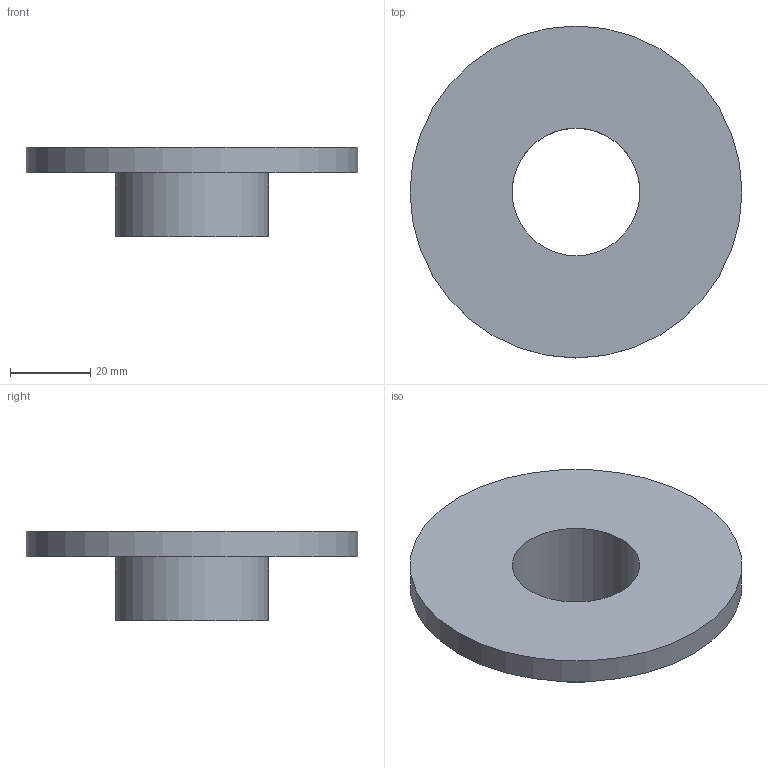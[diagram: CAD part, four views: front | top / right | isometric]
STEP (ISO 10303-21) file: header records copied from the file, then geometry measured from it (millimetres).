
FILE_DESCRIPTION((''),'2;1');
FILE_NAME('C:\REVIT SHARED FILES\STP\HG\HG-125.stp','2013-09-06T15:13:02',('rramoutar'),(''),'Autodesk Inventor 2012','Autodesk Inventor 2012','');
FILE_SCHEMA(('AUTOMOTIVE_DESIGN { 1 0 10303 214 1 1 1 1 }'));
Length unit declared in the file: inch
Products named in the file (1): HG-125
Bounding box: 82.55 x 82.55 x 22.23 mm (x, y, z)
Volume: 34488.6 mm3; surface area: 14884.5 mm2
Topology: 1 solids, 1 shells, 6 faces, 9 edges, 6 vertices
Faces by surface type: plane 3, cylinder 3
Full cylindrical faces by diameter (mm): 31.75 x1, 38.1 x1, 82.55 x1
Entity records: 156 total; most frequent: DIRECTION 26, CARTESIAN_POINT 19, AXIS2_PLACEMENT_3D 13, ORIENTED_EDGE 12, EDGE_LOOP 12, VERTEX_POINT 6, CIRCLE 6, EDGE_CURVE 6
